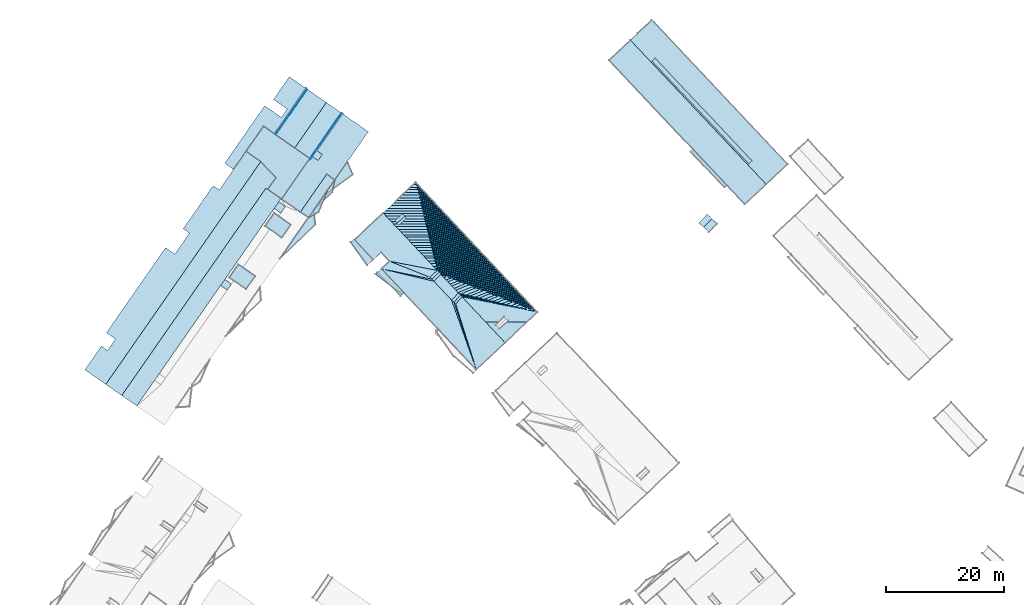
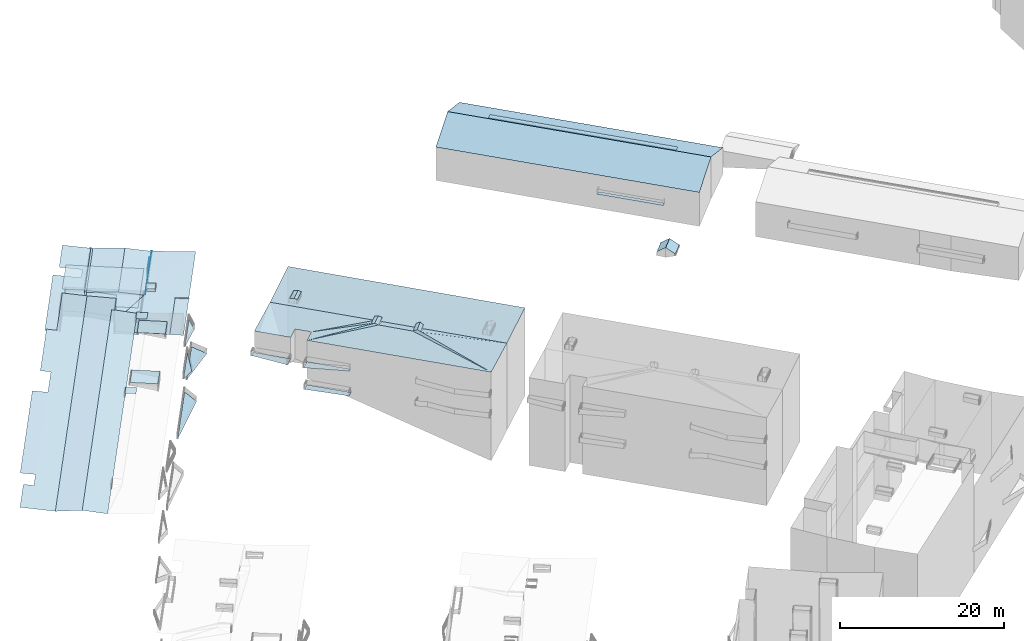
# Not in any storey, part 131 of 136: 73 roofs.
"""IFC2X3 building model written with IfcOpenShell, lengths in metres."""

from ifc_helpers import new_model, entity, si_unit, converted_unit, frame, origin, place, context, subcontext, project, spatial, face_set, surface_model, element, save


model = new_model("IFC2X3")

# Units and contexts
model_context = context("Model", 3, precision=1e-05, world=origin())
body_context = subcontext(model_context, "Body", "Model", "MODEL_VIEW")
ifc_project = project(units=[converted_unit("PLANEANGLEUNIT", "DEGREE", entity("IfcRatioMeasure", 0.0174532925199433), si_unit("PLANEANGLEUNIT", "RADIAN"), dimensions=[0, 0, 0, 0, 0, 0, 0]), si_unit("AREAUNIT", "SQUARE_METRE"), si_unit("LENGTHUNIT", "METRE")], contexts=[model_context])

# Site, building
site_placement = place(None, origin())
site = spatial("IfcSite", under=ifc_project, at=site_placement, Name="_site", CompositionType="ELEMENT")
building_1_placement = place(site_placement, origin())
building_1 = spatial("IfcBuilding", under=site, at=building_1_placement, Name="_building", CompositionType="ELEMENT")

# Roofs
roof_1_placement = place(building_1_placement, origin())
element("IfcRoof", 1, at=roof_1_placement, inside=building_1, Name="Roof", ShapeType="NOTDEFINED", context=body_context, shape_type="SurfaceModel", body=[
    surface_model("IfcFaceBasedSurfaceModel", [(52.76, 147.43, 42.19), (52.36, 147.04, 42.19), (58.08, 140.97, 42.19), (58.49, 141.351, 42.19)], [face_set([[[0, 1, 2, 3]]])]),
])
roof_2_placement = place(building_1_placement, origin())
element("IfcRoof", 2, at=roof_2_placement, inside=building_1, Name="Roof", ShapeType="NOTDEFINED", context=body_context, shape_type="SurfaceModel", body=[
    surface_model("IfcFaceBasedSurfaceModel", [(42.18, 165.851, 46.62), (38.59, 162.47, 44.65), (61.53, 138.12, 44.65), (65.12, 141.5, 46.62)], [face_set([[[0, 1, 2, 3]]])]),
])
roof_3_placement = place(building_1_placement, origin())
element("IfcRoof", 3, at=roof_3_placement, inside=building_1, Name="Roof", ShapeType="NOTDEFINED", context=body_context, shape_type="SurfaceModel", body=[
    surface_model("IfcFaceBasedSurfaceModel", [(65.12, 141.5, 46.62), (68.75, 144.92, 44.65), (46.2, 168.86, 44.65), (45.81, 169.271, 44.65), (43.44, 167.04, 45.93), (42.18, 165.851, 46.62)], [face_set([[[0, 1, 2, 3, 4, 5]]])]),
])
roof_4_placement = place(building_1_placement, origin())
element("IfcRoof", 4, at=roof_4_placement, inside=building_1, Name="Roof", ShapeType="NOTDEFINED", context=body_context, shape_type="SurfaceModel", body=[
    surface_model("IfcFaceBasedSurfaceModel", [(42.18, 165.851, 46.62), (38.59, 162.47, 44.65), (61.53, 138.12, 44.65), (65.12, 141.5, 46.62)], [face_set([[[0, 1, 2, 3]]])]),
])
roof_5_placement = place(building_1_placement, origin())
element("IfcRoof", 5, at=roof_5_placement, inside=building_1, Name="Roof", ShapeType="NOTDEFINED", context=body_context, shape_type="SurfaceModel", body=[
    surface_model("IfcFaceBasedSurfaceModel", [(65.12, 141.5, 46.62), (68.75, 144.92, 44.65), (46.2, 168.86, 44.65), (45.81, 169.271, 44.65), (43.44, 167.04, 45.93), (42.18, 165.851, 46.62)], [face_set([[[0, 1, 2, 3, 4, 5]]])]),
])
for number, where, name in (
    (6, (0.0, 0.0, 0.0), "Roof"),
    (7, (0.0, 0.0, 0.0), "Roof"),
):
    element("IfcRoof", number, at=place(building_1_placement, frame(where)), inside=building_1, Name=name, ShapeType="NOTDEFINED", context=body_context, shape_type="SurfaceModel", body=[
        surface_model("IfcFaceBasedSurfaceModel", [(46.37, 162.83, 46.55), (45.84, 162.33, 46.521), (62.2, 144.96, 46.522), (62.73, 145.46, 46.55)], [face_set([[[0, 1, 2, 3]]])]),
    ])
roof_6_placement = place(building_1_placement, origin())
element("IfcRoof", 8, at=roof_6_placement, inside=building_1, Name="Roof", ShapeType="NOTDEFINED", context=body_context, shape_type="SurfaceModel", body=[
    surface_model("IfcFaceBasedSurfaceModel", [(52.76, 147.43, 42.19), (52.36, 147.04, 42.19), (58.08, 140.97, 42.19), (58.49, 141.351, 42.19)], [face_set([[[0, 1, 2, 3]]])]),
])

# Building
building_2_placement = place(site_placement, origin())
building_2 = spatial("IfcBuilding", under=site, at=building_2_placement, Name="_building", CompositionType="ELEMENT")

# Roofs
for number, where, name in (
    (9, (0.0, 0.0, 0.0), "Roof"),
    (10, (0.0, 0.0, 0.0), "Roof"),
):
    element("IfcRoof", number, at=place(building_2_placement, frame(where)), inside=building_2, Name=name, ShapeType="NOTDEFINED", context=body_context, shape_type="SurfaceModel", body=[
        surface_model("IfcFaceBasedSurfaceModel", [(55.94, 135.7, 41.24), (55.14, 136.45, 40.48), (53.81, 135.05, 40.48), (53.76, 135.0, 40.48), (54.55, 134.24, 41.24)], [face_set([[[0, 1, 2, 3, 4]]])]),
    ])
for number, where, name in (
    (11, (0.0, 0.0, 0.0), "Roof"),
    (12, (0.0, 0.0, 0.0), "Roof"),
):
    element("IfcRoof", number, at=place(building_2_placement, frame(where)), inside=building_2, Name=name, ShapeType="NOTDEFINED", context=body_context, shape_type="SurfaceModel", body=[
        surface_model("IfcFaceBasedSurfaceModel", [(54.55, 134.24, 41.24), (55.44, 133.4, 40.48), (56.82, 134.86, 40.48), (55.94, 135.7, 41.24)], [face_set([[[0, 1, 2, 3]]])]),
    ])

# Building
building_3_placement = place(site_placement, origin())
building_3 = spatial("IfcBuilding", under=site, at=building_3_placement, Name="_building", CompositionType="ELEMENT")

# Roofs
roof_7_placement = place(building_3_placement, origin())
element("IfcRoof", 13, at=roof_7_placement, inside=building_3, Name="Roof", ShapeType="NOTDEFINED", context=body_context, shape_type="SurfaceModel", body=[
    surface_model("IfcFaceBasedSurfaceModel", [(20.99, 114.73, 50.65), (26.5, 119.91, 50.83), (5.89, 141.84, 50.89), (0.38, 136.65, 50.65), (9.5, 126.95, 50.65), (9.8, 126.63, 50.65), (9.962, 126.459, 50.65), (10.14, 126.271, 50.65), (13.088, 123.138, 50.65), (13.44, 122.76, 50.65), (13.728, 122.458, 50.65)], [face_set([[[0, 1, 2, 3, 4, 5, 6, 7, 8, 9, 10]]])]),
])
for number, where, name in (
    (14, (0.0, 0.0, 0.0), "Roof"),
    (15, (0.0, 0.0, 0.0), "Roof"),
):
    element("IfcRoof", number, at=place(building_3_placement, frame(where)), inside=building_3, Name=name, ShapeType="NOTDEFINED", context=body_context, shape_type="SurfaceModel", body=[
        surface_model("IfcFaceBasedSurfaceModel", [(13.728, 122.458, 50.65), (12.64, 121.28, 51.25), (12.34, 121.561, 51.55), (11.95, 121.91, 51.25), (13.088, 123.138, 50.65), (10.14, 126.271, 50.65), (8.96, 125.11, 51.27), (8.61, 125.47, 51.42), (8.31, 125.78, 51.32), (9.5, 126.95, 50.65), (0.38, 136.65, 50.65), (-4.44, 132.12, 50.8), (-1.28, 128.75, 50.8), (0.05, 130.0, 50.8), (1.47, 128.5, 50.8), (0.11, 127.22, 50.8), (16.14, 110.17, 50.8), (20.99, 114.73, 50.65)], [face_set([[[0, 1, 2, 3, 4, 5, 6, 7, 8, 9, 10, 11, 12, 13, 14, 15, 16, 17]]])]),
    ])
roof_8_placement = place(building_3_placement, origin())
element("IfcRoof", 16, at=roof_8_placement, inside=building_3, Name="Roof", ShapeType="NOTDEFINED", context=body_context, shape_type="SurfaceModel", body=[
    surface_model("IfcFaceBasedSurfaceModel", [(-1.28, 128.75, 47.63), (-4.44, 132.12, 47.63), (-4.54, 132.22, 47.63), (-5.07, 131.7, 47.63), (-2.28, 127.83, 47.63)], [face_set([[[0, 1, 2, 3, 4]]])]),
])
roof_9_placement = place(building_3_placement, origin())
element("IfcRoof", 17, at=roof_9_placement, inside=building_3, Name="Roof", ShapeType="NOTDEFINED", context=body_context, shape_type="SurfaceModel", body=[
    surface_model("IfcFaceBasedSurfaceModel", [(3.95, 123.13, 44.2), (0.11, 127.22, 44.2), (-0.61, 126.54, 44.2), (3.38, 122.62, 44.2)], [face_set([[[0, 1, 2, 3]]])]),
])
roof_10_placement = place(building_3_placement, origin())
element("IfcRoof", 18, at=roof_10_placement, inside=building_3, Name="Roof", ShapeType="NOTDEFINED", context=body_context, shape_type="SurfaceModel", body=[
    surface_model("IfcFaceBasedSurfaceModel", [(2.74, 134.92, 51.44), (4.01, 136.13, 51.44), (3.64, 136.521, 51.32), (2.37, 135.32, 51.32)], [face_set([[[0, 1, 2, 3]]])]),
])
roof_11_placement = place(building_3_placement, origin())
element("IfcRoof", 19, at=roof_11_placement, inside=building_3, Name="Roof", ShapeType="NOTDEFINED", context=body_context, shape_type="SurfaceModel", body=[
    surface_model("IfcFaceBasedSurfaceModel", [(-1.28, 128.75, 47.63), (-4.44, 132.12, 47.63), (-4.54, 132.22, 47.63), (-5.07, 131.7, 47.63), (-2.28, 127.83, 47.63)], [face_set([[[0, 1, 2, 3, 4]]])]),
])
for number, where, name in (
    (20, (0.0, 0.0, 0.0), "Roof"),
    (21, (0.0, 0.0, 0.0), "Roof"),
):
    element("IfcRoof", number, at=place(building_3_placement, frame(where)), inside=building_3, Name=name, ShapeType="NOTDEFINED", context=body_context, shape_type="SurfaceModel", body=[
        surface_model("IfcFaceBasedSurfaceModel", [(2.74, 134.92, 51.44), (3.04, 134.61, 51.34), (4.31, 135.811, 51.34), (4.01, 136.13, 51.44)], [face_set([[[0, 1, 2, 3]]])]),
    ])
for number, where, name in (
    (22, (0.0, 0.0, 0.0), "Roof"),
    (23, (0.0, 0.0, 0.0), "Roof"),
):
    element("IfcRoof", number, at=place(building_3_placement, frame(where)), inside=building_3, Name=name, ShapeType="NOTDEFINED", context=body_context, shape_type="SurfaceModel", body=[
        surface_model("IfcFaceBasedSurfaceModel", [(3.57, 122.9, 47.65), (3.87, 123.22, 47.65), (0.11, 127.22, 47.65), (-0.87, 126.28, 47.65)], [face_set([[[0, 1, 2, 3]]])]),
    ])
roof_12_placement = place(building_3_placement, origin())
element("IfcRoof", 24, at=roof_12_placement, inside=building_3, Name="Roof", ShapeType="NOTDEFINED", context=body_context, shape_type="SurfaceModel", body=[
    surface_model("IfcFaceBasedSurfaceModel", [(3.95, 123.13, 44.2), (0.11, 127.22, 44.2), (-0.61, 126.54, 44.2), (3.38, 122.62, 44.2)], [face_set([[[0, 1, 2, 3]]])]),
])
for number, where, name in (
    (25, (0.0, 0.0, 0.0), "Roof"),
    (26, (0.0, 0.0, 0.0), "Roof"),
):
    element("IfcRoof", number, at=place(building_3_placement, frame(where)), inside=building_3, Name=name, ShapeType="NOTDEFINED", context=body_context, shape_type="SurfaceModel", body=[
        surface_model("IfcFaceBasedSurfaceModel", [(13.088, 123.138, 51.25), (11.95, 121.91, 51.25), (12.34, 121.561, 51.55), (13.44, 122.76, 51.55)], [face_set([[[0, 1, 2, 3]]])]),
    ])
roof_13_placement = place(building_3_placement, origin())
element("IfcRoof", 27, at=roof_13_placement, inside=building_3, Name="Roof", ShapeType="NOTDEFINED", context=body_context, shape_type="SurfaceModel", body=[
    surface_model("IfcFaceBasedSurfaceModel", [(2.74, 134.92, 51.44), (4.01, 136.13, 51.44), (3.64, 136.521, 51.32), (2.37, 135.32, 51.32)], [face_set([[[0, 1, 2, 3]]])]),
])
for number, where, name in (
    (28, (0.0, 0.0, 0.0), "Roof"),
    (29, (0.0, 0.0, 0.0), "Roof"),
):
    element("IfcRoof", number, at=place(building_3_placement, frame(where)), inside=building_3, Name=name, ShapeType="NOTDEFINED", context=body_context, shape_type="SurfaceModel", body=[
        surface_model("IfcFaceBasedSurfaceModel", [(13.44, 122.76, 51.55), (12.34, 121.561, 51.55), (12.64, 121.28, 51.25), (13.728, 122.458, 51.25)], [face_set([[[0, 1, 2, 3]]])]),
    ])
for number, where, name in (
    (30, (0.0, 0.0, 0.0), "Roof"),
    (31, (0.0, 0.0, 0.0), "Roof"),
):
    element("IfcRoof", number, at=place(building_3_placement, frame(where)), inside=building_3, Name=name, ShapeType="NOTDEFINED", context=body_context, shape_type="SurfaceModel", body=[
        surface_model("IfcFaceBasedSurfaceModel", [(9.5, 126.95, 51.32), (8.31, 125.78, 51.32), (8.61, 125.47, 51.42), (9.8, 126.63, 51.42)], [face_set([[[0, 1, 2, 3]]])]),
    ])
for number, where, name in (
    (32, (0.0, 0.0, 0.0), "Roof"),
    (33, (0.0, 0.0, 0.0), "Roof"),
):
    element("IfcRoof", number, at=place(building_3_placement, frame(where)), inside=building_3, Name=name, ShapeType="NOTDEFINED", context=body_context, shape_type="SurfaceModel", body=[
        surface_model("IfcFaceBasedSurfaceModel", [(9.8, 126.63, 51.42), (8.61, 125.47, 51.42), (8.96, 125.11, 51.27), (10.14, 126.271, 51.27), (9.962, 126.459, 51.348)], [face_set([[[0, 1, 2, 3, 4]]])]),
    ])
roof_14_placement = place(building_3_placement, origin())
element("IfcRoof", 34, at=roof_14_placement, inside=building_3, Name="Roof", ShapeType="NOTDEFINED", context=body_context, shape_type="SurfaceModel", body=[
    surface_model("IfcFaceBasedSurfaceModel", [(20.99, 114.73, 50.65), (26.5, 119.91, 50.83), (5.89, 141.84, 50.89), (0.38, 136.65, 50.65), (9.5, 126.95, 50.65), (9.8, 126.63, 50.65), (9.962, 126.459, 50.65), (10.14, 126.271, 50.65), (13.088, 123.138, 50.65), (13.44, 122.76, 50.65), (13.728, 122.458, 50.65)], [face_set([[[0, 1, 2, 3, 4, 5, 6, 7, 8, 9, 10]]])]),
])

# Building
building_4_placement = place(site_placement, origin())
building_4 = spatial("IfcBuilding", under=site, at=building_4_placement, Name="_building", CompositionType="ELEMENT")

# Roofs
for number, where, name in (
    (35, (0.0, 0.0, 0.0), "Roof"),
    (36, (0.0, 0.0, 0.0), "Roof"),
):
    element("IfcRoof", number, at=place(building_4_placement, frame(where)), inside=building_4, Name=name, ShapeType="NOTDEFINED", context=body_context, shape_type="SurfaceModel", body=[
        surface_model("IfcFaceBasedSurfaceModel", [(-14.571, 147.639, 50.72), (-12.02, 145.86, 50.47), (-6.67, 153.55, 50.47), (-9.22, 155.33, 50.72)], [face_set([[[0, 1, 2, 3]]])]),
    ])
for number, where, name in (
    (37, (0.0, 0.0, 0.0), "Roof"),
    (38, (0.0, 0.0, 0.0), "Roof"),
):
    element("IfcRoof", number, at=place(building_4_placement, frame(where)), inside=building_4, Name=name, ShapeType="NOTDEFINED", context=body_context, shape_type="SurfaceModel", body=[
        surface_model("IfcFaceBasedSurfaceModel", [(-20.31, 145.34, 53.58), (-22.79, 147.07, 53.83), (-24.9, 144.03, 53.83), (-27.33, 140.54, 53.83), (-28.36, 141.26, 53.93), (-33.42, 133.99, 53.93), (-32.36, 133.25, 53.83), (-34.83, 129.7, 53.83), (-36.4, 130.79, 53.93), (-46.39, 116.42, 53.93), (-44.86, 115.36, 53.83), (-46.2, 113.43, 53.83), (-47.25, 114.16, 53.93), (-50.04, 110.15, 53.93), (-46.5, 107.69, 53.58)], [face_set([[[0, 1, 2, 3, 4, 5, 6, 7, 8, 9, 10, 11, 12, 13, 14]]])]),
    ])
for number, where, name in (
    (39, (0.0, 0.0, 0.0), "Roof"),
    (40, (0.0, 0.0, 0.0), "Roof"),
):
    element("IfcRoof", number, at=place(building_4_placement, frame(where)), inside=building_4, Name=name, ShapeType="NOTDEFINED", context=body_context, shape_type="SurfaceModel", body=[
        surface_model("IfcFaceBasedSurfaceModel", [(-46.5, 107.69, 53.58), (-43.81, 105.811, 53.93), (-19.44, 140.851, 53.93), (-19.13, 140.63, 53.93), (-17.73, 142.64, 53.93), (-20.31, 145.34, 53.58)], [face_set([[[0, 1, 2, 3, 4, 5]]])]),
    ])
roof_15_placement = place(building_4_placement, origin())
element("IfcRoof", 41, at=roof_15_placement, inside=building_4, Name="Roof", ShapeType="NOTDEFINED", context=body_context, shape_type="SurfaceModel", body=[
    surface_model("IfcFaceBasedSurfaceModel", [(-11.83, 145.73, 50.676), (-12.02, 145.86, 50.47), (-14.571, 147.639, 50.72), (-17.78, 149.87, 50.47), (-17.98, 150.01, 50.676), (-12.63, 157.7, 50.47), (-15.48, 159.68, 50.72), (-18.16, 155.83, 50.72), (-15.84, 154.22, 50.52), (-16.82, 152.811, 50.52), (-19.65, 154.78, 50.72), (-26.4, 145.07, 50.72), (-24.9, 144.03, 50.64), (-22.79, 147.07, 50.64), (-20.31, 145.34, 50.72), (-17.73, 142.64, 50.72), (-19.13, 140.63, 50.72), (-16.89, 139.07, 50.687), (-13.62, 136.8, 50.64), (-9.17, 143.2, 50.64), (-7.79, 142.25, 50.72), (-2.13, 150.39, 50.72), (-6.48, 153.42, 50.47), (-10.82, 147.18, 50.676), (-9.91, 146.55, 50.676), (-10.63, 145.521, 50.676), (-11.533, 146.152, 50.676)], [face_set([[[0, 1, 2, 3, 4, 5, 6, 7, 8, 9, 10, 11, 12, 13, 14, 15, 16, 17, 18, 19, 20, 21, 22, 23, 24, 25, 26]]])]),
])
for number, where, name in (
    (42, (0.0, 0.0, 0.0), "Roof"),
    (43, (0.0, 0.0, 0.0), "Roof"),
):
    element("IfcRoof", number, at=place(building_4_placement, frame(where)), inside=building_4, Name=name, ShapeType="NOTDEFINED", context=body_context, shape_type="SurfaceModel", body=[
        surface_model("IfcFaceBasedSurfaceModel", [(-20.31, 145.34, 50.39), (-17.73, 142.64, 50.39), (-19.13, 140.63, 50.39), (-16.79, 139.01, 50.39), (-12.02, 145.86, 50.39), (-19.84, 151.3, 50.39), (-22.79, 147.07, 50.39)], [face_set([[[0, 1, 2, 3, 4, 5, 6]]])]),
    ])
roof_16_placement = place(building_4_placement, origin())
element("IfcRoof", 44, at=roof_16_placement, inside=building_4, Name="Roof", ShapeType="NOTDEFINED", context=body_context, shape_type="SurfaceModel", body=[
    surface_model("IfcFaceBasedSurfaceModel", [(-13.62, 136.8, 50.64), (-12.24, 135.84, 50.64), (-7.79, 142.25, 50.64), (-9.17, 143.2, 50.64)], [face_set([[[0, 1, 2, 3]]])]),
])
roof_17_placement = place(building_4_placement, origin())
element("IfcRoof", 45, at=roof_17_placement, inside=building_4, Name="Roof", ShapeType="NOTDEFINED", context=body_context, shape_type="SurfaceModel", body=[
    surface_model("IfcFaceBasedSurfaceModel", [(-17.98, 150.01, 50.47), (-17.78, 149.87, 50.47), (-12.43, 157.561, 50.47), (-12.63, 157.7, 50.47)], [face_set([[[0, 1, 2, 3]]])]),
])
for number, where, name in (
    (46, (0.0, 0.0, 0.0), "Roof"),
    (47, (0.0, 0.0, 0.0), "Roof"),
):
    element("IfcRoof", number, at=place(building_4_placement, frame(where)), inside=building_4, Name=name, ShapeType="NOTDEFINED", context=body_context, shape_type="SurfaceModel", body=[
        surface_model("IfcFaceBasedSurfaceModel", [(-8.24, 140.12, 47.57), (-7.75, 142.311, 47.57), (-8.97, 140.561, 47.57), (-11.12, 137.45, 47.57)], [face_set([[[0, 1, 2, 3]]])]),
    ])
for number, where, name in (
    (48, (0.0, 0.0, 0.0), "Roof"),
    (49, (0.0, 0.0, 0.0), "Roof"),
):
    element("IfcRoof", number, at=place(building_4_placement, frame(where)), inside=building_4, Name=name, ShapeType="NOTDEFINED", context=body_context, shape_type="SurfaceModel", body=[
        surface_model("IfcFaceBasedSurfaceModel", [(-22.79, 123.76, 54.46), (-21.25, 125.96, 54.46), (-24.08, 127.94, 54.46), (-25.62, 125.73, 54.46)], [face_set([[[0, 1, 2, 3]]])]),
    ])
for number, where, name in (
    (50, (0.0, 0.0, 0.0), "Roof"),
    (51, (0.0, 0.0, 0.0), "Roof"),
):
    element("IfcRoof", number, at=place(building_4_placement, frame(where)), inside=building_4, Name=name, ShapeType="NOTDEFINED", context=body_context, shape_type="SurfaceModel", body=[
        surface_model("IfcFaceBasedSurfaceModel", [(-16.73, 132.46, 54.46), (-15.22, 134.64, 54.46), (-18.05, 136.61, 54.46), (-19.57, 134.43, 54.46)], [face_set([[[0, 1, 2, 3]]])]),
    ])
roof_18_placement = place(building_4_placement, origin())
element("IfcRoof", 52, at=roof_18_placement, inside=building_4, Name="Roof", ShapeType="NOTDEFINED", context=body_context, shape_type="SurfaceModel", body=[
    surface_model("IfcFaceBasedSurfaceModel", [(-11.533, 146.152, 51.08), (-10.63, 145.521, 51.08), (-9.91, 146.55, 51.08), (-10.82, 147.18, 51.08)], [face_set([[[0, 1, 2, 3]]])]),
])
for number, where, name in (
    (53, (0.0, 0.0, 0.0), "Roof"),
    (54, (0.0, 0.0, 0.0), "Roof"),
):
    element("IfcRoof", number, at=place(building_4_placement, frame(where)), inside=building_4, Name=name, ShapeType="NOTDEFINED", context=body_context, shape_type="SurfaceModel", body=[
        surface_model("IfcFaceBasedSurfaceModel", [(-5.66, 145.311, 40.91), (-7.75, 142.311, 40.91), (-8.97, 140.561, 40.91), (-9.7, 139.51, 40.91), (-4.73, 143.14, 40.91)], [face_set([[[0, 1, 2, 3, 4]]])]),
    ])
roof_19_placement = place(building_4_placement, origin())
element("IfcRoof", 55, at=roof_19_placement, inside=building_4, Name="Roof", ShapeType="NOTDEFINED", context=body_context, shape_type="SurfaceModel", body=[
    surface_model("IfcFaceBasedSurfaceModel", [(-13.62, 136.8, 50.64), (-12.24, 135.84, 50.64), (-7.79, 142.25, 50.64), (-9.17, 143.2, 50.64)], [face_set([[[0, 1, 2, 3]]])]),
])
for number, where, name in (
    (56, (0.0, 0.0, 0.0), "Roof"),
    (57, (0.0, 0.0, 0.0), "Roof"),
):
    element("IfcRoof", number, at=place(building_4_placement, frame(where)), inside=building_4, Name=name, ShapeType="NOTDEFINED", context=body_context, shape_type="SurfaceModel", body=[
        surface_model("IfcFaceBasedSurfaceModel", [(-27.11, 124.38, 54.2), (-25.99, 123.601, 54.2), (-25.25, 124.65, 54.2), (-26.373, 125.432, 54.2)], [face_set([[[0, 1, 2, 3]]])]),
    ])
roof_20_placement = place(building_4_placement, origin())
element("IfcRoof", 58, at=roof_20_placement, inside=building_4, Name="Roof", ShapeType="NOTDEFINED", context=body_context, shape_type="SurfaceModel", body=[
    surface_model("IfcFaceBasedSurfaceModel", [(-19.44, 140.851, 53.93), (-43.81, 105.811, 53.93), (-41.26, 104.04, 53.58), (-38.249, 108.369, 53.58), (-37.463, 109.492, 53.58), (-27.11, 124.38, 53.58), (-26.373, 125.432, 53.58), (-18.039, 137.419, 53.58), (-17.248, 138.56, 53.58), (-16.89, 139.07, 53.58), (-19.13, 140.63, 53.93)], [face_set([[[0, 1, 2, 3, 4, 5, 6, 7, 8, 9, 10]]])]),
])
for number, where, name in (
    (59, (0.0, 0.0, 0.0), "Roof"),
    (60, (0.0, 0.0, 0.0), "Roof"),
):
    element("IfcRoof", number, at=place(building_4_placement, frame(where)), inside=building_4, Name=name, ShapeType="NOTDEFINED", context=body_context, shape_type="SurfaceModel", body=[
        surface_model("IfcFaceBasedSurfaceModel", [(-10.54, 136.79, 44.17), (-8.97, 140.561, 44.17), (-11.34, 137.15, 44.17), (-12.24, 135.84, 44.17)], [face_set([[[0, 1, 2, 3]]])]),
    ])
roof_21_placement = place(building_4_placement, origin())
element("IfcRoof", 61, at=roof_21_placement, inside=building_4, Name="Roof", ShapeType="NOTDEFINED", context=body_context, shape_type="SurfaceModel", body=[
    surface_model("IfcFaceBasedSurfaceModel", [(-19.44, 140.851, 53.93), (-43.81, 105.811, 53.93), (-41.26, 104.04, 53.58), (-38.249, 108.369, 53.58), (-37.463, 109.492, 53.58), (-27.11, 124.38, 53.58), (-26.373, 125.432, 53.58), (-18.039, 137.419, 53.58), (-17.248, 138.56, 53.58), (-16.89, 139.07, 53.58), (-19.13, 140.63, 53.93)], [face_set([[[0, 1, 2, 3, 4, 5, 6, 7, 8, 9, 10]]])]),
])
for number, where, name in (
    (62, (0.0, 0.0, 0.0), "Roof"),
    (63, (0.0, 0.0, 0.0), "Roof"),
):
    element("IfcRoof", number, at=place(building_4_placement, frame(where)), inside=building_4, Name=name, ShapeType="NOTDEFINED", context=body_context, shape_type="SurfaceModel", body=[
        surface_model("IfcFaceBasedSurfaceModel", [(-17.06, 128.92, 41.15), (-11.08, 134.68, 41.15), (-11.34, 137.15, 41.15)], [face_set([[[0, 1, 2]]])]),
    ])
roof_22_placement = place(building_4_placement, origin())
element("IfcRoof", 64, at=roof_22_placement, inside=building_4, Name="Roof", ShapeType="NOTDEFINED", context=body_context, shape_type="SurfaceModel", body=[
    surface_model("IfcFaceBasedSurfaceModel", [(-20.31, 145.34, 54.39), (-17.73, 142.64, 54.39), (-19.13, 140.63, 54.39), (-16.79, 139.01, 54.39), (-12.02, 145.86, 54.39), (-19.84, 151.3, 54.39), (-22.79, 147.07, 54.39)], [face_set([[[0, 1, 2, 3, 4, 5, 6]]])]),
])
for number, where, name in (
    (65, (0.0, 0.0, 0.0), "Roof"),
    (66, (0.0, 0.0, 0.0), "Roof"),
):
    element("IfcRoof", number, at=place(building_4_placement, frame(where)), inside=building_4, Name=name, ShapeType="NOTDEFINED", context=body_context, shape_type="SurfaceModel", body=[
        surface_model("IfcFaceBasedSurfaceModel", [(-17.78, 149.87, 50.47), (-14.571, 147.639, 50.72), (-9.22, 155.33, 50.72), (-12.43, 157.561, 50.47)], [face_set([[[0, 1, 2, 3]]])]),
    ])
roof_23_placement = place(building_4_placement, origin())
element("IfcRoof", 67, at=roof_23_placement, inside=building_4, Name="Roof", ShapeType="NOTDEFINED", context=body_context, shape_type="SurfaceModel", body=[
    surface_model("IfcFaceBasedSurfaceModel", [(-17.98, 150.01, 50.47), (-17.78, 149.87, 50.47), (-12.43, 157.561, 50.47), (-12.63, 157.7, 50.47)], [face_set([[[0, 1, 2, 3]]])]),
])
roof_24_placement = place(building_4_placement, origin())
element("IfcRoof", 68, at=roof_24_placement, inside=building_4, Name="Roof", ShapeType="NOTDEFINED", context=body_context, shape_type="SurfaceModel", body=[
    surface_model("IfcFaceBasedSurfaceModel", [(-11.83, 145.73, 50.676), (-12.02, 145.86, 50.47), (-14.571, 147.639, 50.72), (-17.78, 149.87, 50.47), (-17.98, 150.01, 50.676), (-12.63, 157.7, 50.47), (-15.48, 159.68, 50.72), (-18.16, 155.83, 50.72), (-15.84, 154.22, 50.52), (-16.82, 152.811, 50.52), (-19.65, 154.78, 50.72), (-26.4, 145.07, 50.72), (-24.9, 144.03, 50.64), (-22.79, 147.07, 50.64), (-20.31, 145.34, 50.72), (-17.73, 142.64, 50.72), (-19.13, 140.63, 50.72), (-16.89, 139.07, 50.687), (-13.62, 136.8, 50.64), (-9.17, 143.2, 50.64), (-7.79, 142.25, 50.72), (-2.13, 150.39, 50.72), (-6.48, 153.42, 50.47), (-10.82, 147.18, 50.676), (-9.91, 146.55, 50.676), (-10.63, 145.521, 50.676), (-11.533, 146.152, 50.676)], [face_set([[[0, 1, 2, 3, 4, 5, 6, 7, 8, 9, 10, 11, 12, 13, 14, 15, 16, 17, 18, 19, 20, 21, 22, 23, 24, 25, 26]]])]),
])
roof_25_placement = place(building_4_placement, origin())
element("IfcRoof", 69, at=roof_25_placement, inside=building_4, Name="Roof", ShapeType="NOTDEFINED", context=body_context, shape_type="SurfaceModel", body=[
    surface_model("IfcFaceBasedSurfaceModel", [(-11.533, 146.152, 51.08), (-10.63, 145.521, 51.08), (-9.91, 146.55, 51.08), (-10.82, 147.18, 51.08)], [face_set([[[0, 1, 2, 3]]])]),
])
for number, where, name in (
    (70, (0.0, 0.0, 0.0), "Roof"),
    (71, (0.0, 0.0, 0.0), "Roof"),
):
    element("IfcRoof", number, at=place(building_4_placement, frame(where)), inside=building_4, Name=name, ShapeType="NOTDEFINED", context=body_context, shape_type="SurfaceModel", body=[
        surface_model("IfcFaceBasedSurfaceModel", [(-18.039, 137.419, 54.2), (-16.92, 136.64, 54.2), (-16.13, 137.78, 54.2), (-17.248, 138.56, 54.2)], [face_set([[[0, 1, 2, 3]]])]),
    ])
for number, where, name in (
    (72, (0.0, 0.0, 0.0), "Roof"),
    (73, (0.0, 0.0, 0.0), "Roof"),
):
    element("IfcRoof", number, at=place(building_4_placement, frame(where)), inside=building_4, Name=name, ShapeType="NOTDEFINED", context=body_context, shape_type="SurfaceModel", body=[
        surface_model("IfcFaceBasedSurfaceModel", [(-12.02, 145.86, 50.47), (-11.83, 145.73, 50.47), (-11.533, 146.152, 50.47), (-10.82, 147.18, 50.47), (-6.48, 153.42, 50.47), (-6.67, 153.55, 50.47)], [face_set([[[0, 1, 2, 3, 4, 5]]])]),
    ])

save(model, "model.ifc")
